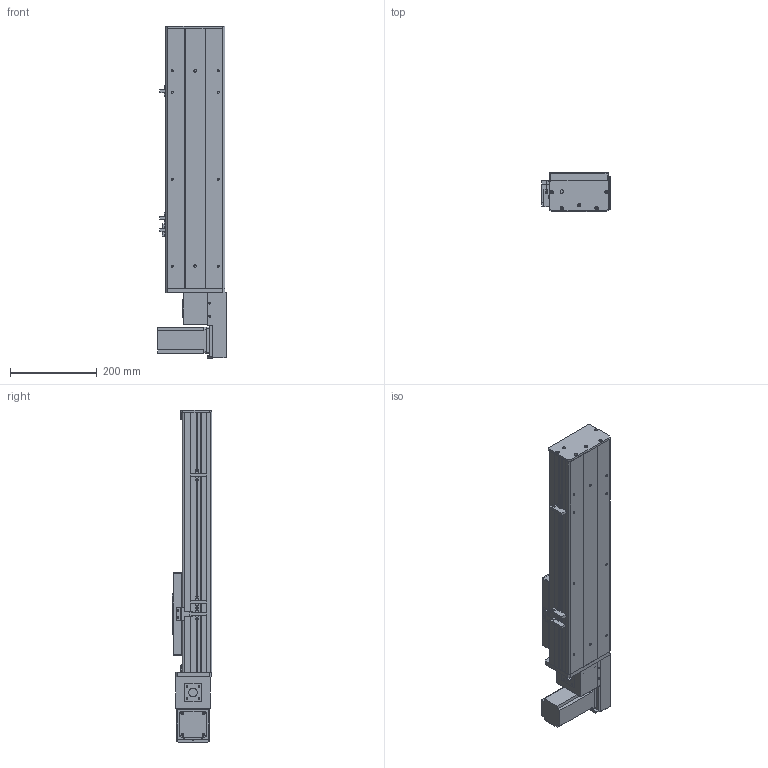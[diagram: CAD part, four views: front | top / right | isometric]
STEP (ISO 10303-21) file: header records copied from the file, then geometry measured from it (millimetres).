
FILE_DESCRIPTION (( 'STEP AP203' ), '1' );
FILE_NAME ('Y135CB-D90-S300-BL-P400W.STEP', '2020-02-17T08:01:31', ( '微软用户' ), ( '微软中国' ), 'SwSTEP 2.0', 'SolidWorks 2017', '' );
FILE_SCHEMA (( 'CONFIG_CONTROL_DESIGN' ));
Length unit declared in the file: millimetre
Products named in the file (18): C-詩湍揤踡え-陔; Y10B--々湍喘謫眊--666; 135CB--詩湍-CE; Y10B-耜蚾蟀諉啣----; Y100-135俋离換覜ん--; Y俋欶BR----; Y135C-陔俋离換覜結え-; 0B-埴倛裔啣; 5C--俋欶; 0B-源倛裔啣; C-雄赽釱--; 0B-萇儂楊擘啣; Y135CB-耜裔; Y135CB-D90-S300-BL-P400W; san松下电机400不带刹车----; 135CB---遴掛极.-; 5CB --掛极耜裔啣-; 35CB---喘謫眊楊擘啣
Assembly tree (21 placements, depth 2):
  Y135CB-D90-S300-BL-P400W
    Y135CB-耜裔
    135CB---遴掛极.-
    35CB---喘謫眊楊擘啣
    Y10B--々湍喘謫眊--666
    Y10B-耜蚾蟀諉啣----
    Y俋欶BR----
    0B-埴倛裔啣
    0B-源倛裔啣
    0B-萇儂楊擘啣
    san松下电机400不带刹车----
    5CB --掛极耜裔啣-  x2
    C-詩湍揤踡え-陔  x2
    135CB--詩湍-CE
    Y100-135俋离換覜ん--  x3
    Y135C-陔俋离換覜結え-
    5C--俋欶
    C-雄赽釱--
Bounding box: 157.5 x 91 x 764.5 mm (x, y, z)
Volume: 2569056 mm3; surface area: 988083 mm2
Topology: 21 solids, 21 shells, 951 faces, 2509 edges, 1662 vertices
Faces by surface type: cylinder 471, plane 464, cone 16
Entity records: 29215 total; most frequent: DIRECTION 4865, CARTESIAN_POINT 4758, ORIENTED_EDGE 4494, EDGE_CURVE 2247, AXIS2_PLACEMENT_3D 1773, VERTEX_POINT 1490, LINE 1319, VECTOR 1319
